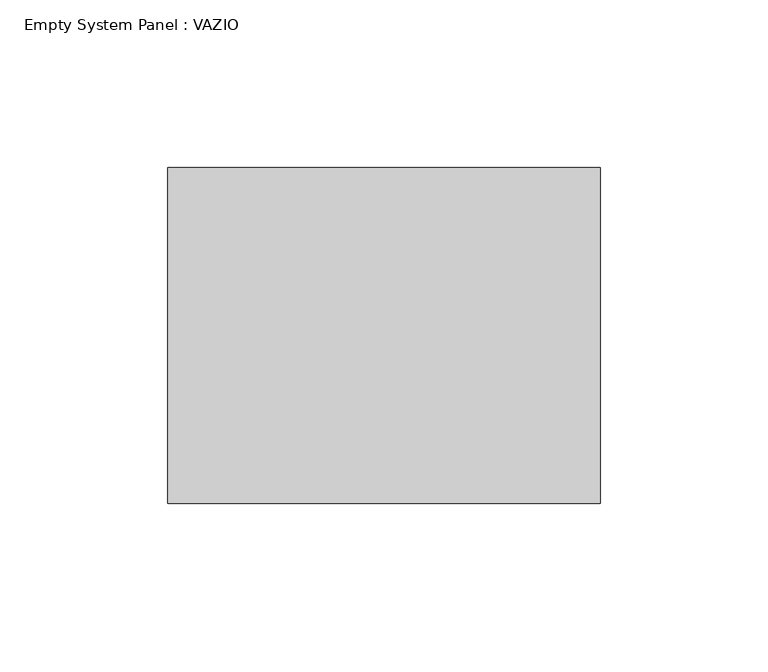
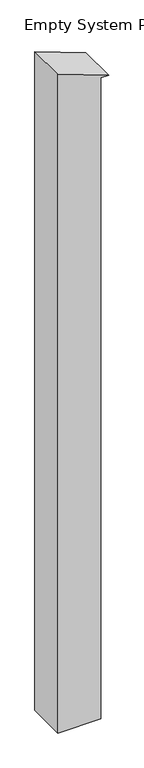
"""IFC4 building model written with IfcOpenShell, lengths in millimetres: plate geometry, Empty System Panel : VAZIO."""

from ifc_helpers import new_model, si_unit, point, frame, frame_2d, origin, place, context, project, spatial, polyline, circle_curve, trimmed, segment, composite_curve, outline, extrude, source, transform, mapped, element, save


def empty_system_panel_vazio_7a6be532(model_context):
    return source(origin(), model_context, "Body", "SweptSolid", [
        extrude(outline(composite_curve([segment(polyline([(0.0, -64.3902439), (0.0, 44.3902439), (1713.2295207, 44.3902439), (1713.2295207, 64.3902439)]), True, "CONTINUOUS"), segment(trimmed(circle_curve(frame_2d((2889.8290938, 422.8760111)), 1229.9994311), [point((1713.2295207, 64.3902439))], [point((1760.461927, -64.3902439))], True, "CARTESIAN"), True, "CONTINUOUS"), segment(polyline([(1760.461927, -64.3902439), (0.0, -64.3902439)]), True, "CONTINUOUS")], self_intersect=False)), frame((0.0, -50.0, 0.0), z_axis=(0.0, 1.0, 0.0), x_axis=(0.0, 0.0, 1.0)), (0.0, 0.0, 1.0), 100.0),
    ])


if __name__ == "__main__":
    model = new_model("IFC4")
    model_context = context("Model", 3, world=origin())
    ifc_project = project(units=[si_unit("LENGTHUNIT", "METRE", prefix="MILLI")], contexts=[model_context])
    site = spatial("IfcSite", under=ifc_project)
    building = spatial("IfcBuilding", under=site)
    placement = place(None, origin())
    empty_system_panel_vazio_shape = empty_system_panel_vazio_7a6be532(model_context)
    element("IfcPlate", 1, ObjectType="Empty System Panel : VAZIO", at=placement, inside=building, context=model_context, shape_type="MappedRepresentation", body=[
        mapped(empty_system_panel_vazio_shape, transform((0.0, 0.0, 0.0), x_axis=(1.0, 0.0, 0.0), y_axis=(0.0, 1.0, 0.0), z_axis=(0.0, 0.0, 1.0))),
    ])
    save(model, "model.ifc")
